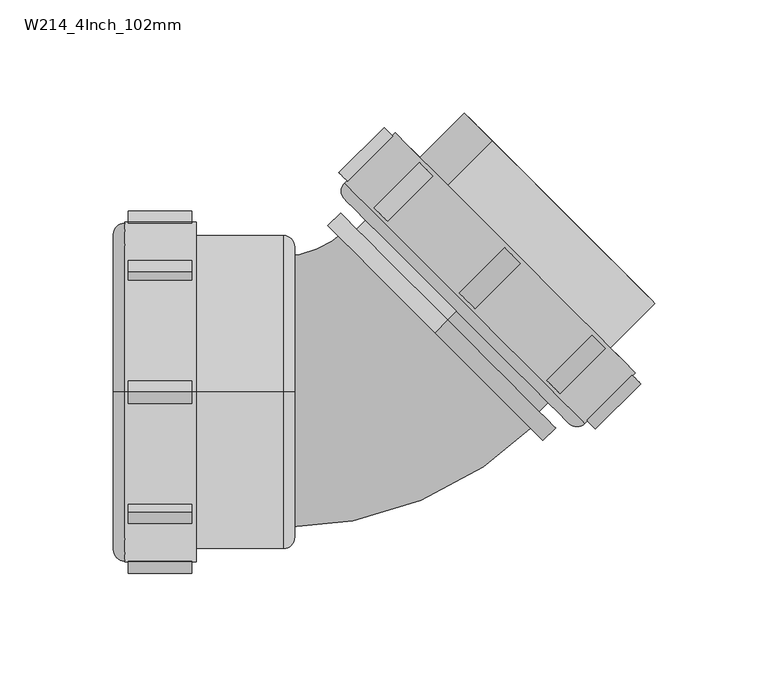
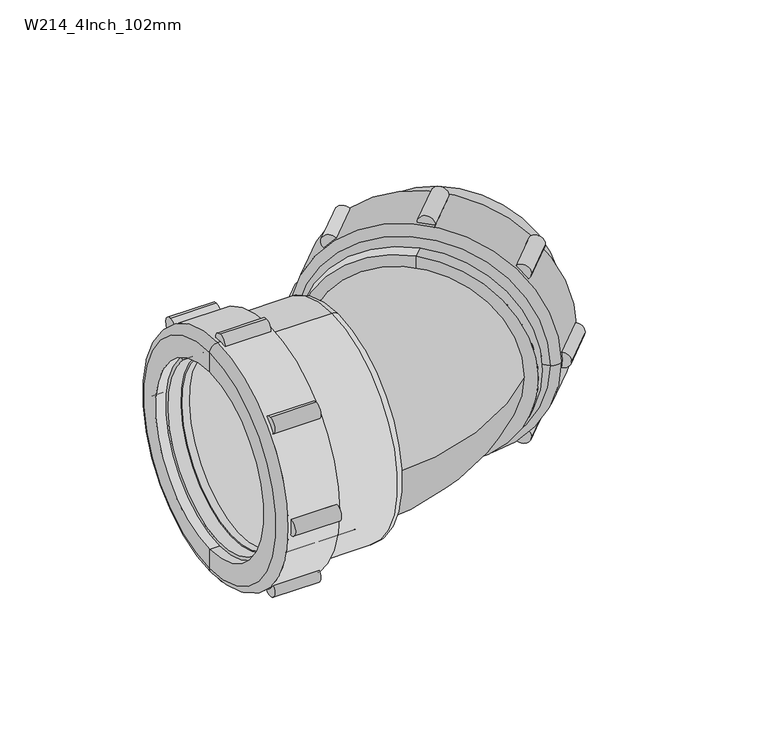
"""IFC4 building model written with IfcOpenShell, lengths in millimetres: pipe fitting geometry, Durapipe_PipeFitting_VulcatheneMechanical_135LooseNutSweepBend_W21 : W214_4Inch_102mm."""

from ifc_helpers import new_model, si_unit, point, frame, frame_2d, origin, place, context, project, spatial, polyline, circle_curve, ellipse_curve, trimmed, segment, composite_curve, outline, extrude, source, transform, mapped, element, save
from ifc_brep_helpers import plane_surface, cylinder_surface, revolved_surface, advanced_brep


def w214_4inch_102mm_c2af0c5c(model_context):
    return source(origin(), model_context, "Body", "SolidModel", [
        advanced_brep(
        [(7.4880839, 71.6880839, 45.3962554), (11.7380839, 67.4380839, 39.3858477), (67.4380839, 11.7380839, -39.3858477), (71.6880839, 7.4880839, -45.3962554), (84.7030117, 25.3030117, -42.0021428), (25.3030117, 84.7030117, 42.0021428), (51.3952519, 110.7952519, 42.0021428), (110.7952519, 51.3952519, -42.0021428), (109.6452519, 52.5452519, -40.3757972), (52.5452519, 109.6452519, 40.3757972), (77.11834, 20.01834, -40.3757972), (20.01834, 77.11834, 40.3757972), (76.06834, 21.06834, -38.890873), (21.06834, 76.06834, 38.890873), (17.5363595, 73.2363595, 39.3858477), (17.8863595, 72.8863595, 38.890873), (72.8863595, 17.8863595, -38.890873), (73.2363595, 17.5363595, -39.3858477)],
        [
            (0, 1),
            (1, 2, circle_curve(frame((39.5880839, 39.5880839, 0.0), z_axis=(0.7071067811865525, 0.7071067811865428, 0.0), x_axis=(0.4999999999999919, -0.5000000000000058, -0.7071067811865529)), 55.7)),
            (2, 3),
            (3, 0, circle_curve(frame((39.5880839, 39.5880839, 0.0), z_axis=(-0.7071067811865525, -0.7071067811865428, 0.0), x_axis=(0.4999999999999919, -0.5000000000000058, -0.7071067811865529)), 64.2)),
            (2, 1, circle_curve(frame((39.5880839, 39.5880839, 0.0), z_axis=(0.7071067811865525, 0.7071067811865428, 0.0), x_axis=(0.4999999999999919, -0.5000000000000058, -0.7071067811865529)), 55.7)),
            (0, 3, circle_curve(frame((39.5880839, 39.5880839, 0.0), z_axis=(-0.7071067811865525, -0.7071067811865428, 0.0), x_axis=(0.4999999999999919, -0.5000000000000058, -0.7071067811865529)), 64.2)),
            (3, 4),
            (4, 5, circle_curve(frame((55.0030117, 55.0030117, 0.0), z_axis=(-0.7071067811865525, -0.7071067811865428, 0.0), x_axis=(0.4999999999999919, -0.5000000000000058, -0.7071067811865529)), 59.4)),
            (5, 0),
            (5, 4, circle_curve(frame((55.0030117, 55.0030117, 0.0), z_axis=(-0.7071067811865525, -0.7071067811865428, 0.0), x_axis=(0.4999999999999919, -0.5000000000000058, -0.7071067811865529)), 59.4)),
            (6, 5),
            (4, 7),
            (7, 6, circle_curve(frame((81.0952519, 81.0952519, 0.0), z_axis=(-0.7071067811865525, -0.7071067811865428, 0.0), x_axis=(0.4999999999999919, -0.5000000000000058, -0.7071067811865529)), 59.4)),
            (6, 7, circle_curve(frame((81.0952519, 81.0952519, 0.0), z_axis=(-0.7071067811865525, -0.7071067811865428, 0.0), x_axis=(0.4999999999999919, -0.5000000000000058, -0.7071067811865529)), 59.4)),
            (7, 8),
            (8, 9, circle_curve(frame((81.0952519, 81.0952519, 0.0), z_axis=(-0.7071067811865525, -0.7071067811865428, 0.0), x_axis=(0.4999999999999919, -0.5000000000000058, -0.7071067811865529)), 57.1)),
            (9, 6),
            (9, 8, circle_curve(frame((81.0952519, 81.0952519, 0.0), z_axis=(-0.7071067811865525, -0.7071067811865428, 0.0), x_axis=(0.4999999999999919, -0.5000000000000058, -0.7071067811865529)), 57.1)),
            (8, 10),
            (10, 11, circle_curve(frame((48.56834, 48.56834, 0.0), z_axis=(-0.7071067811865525, -0.7071067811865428, 0.0), x_axis=(0.4999999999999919, -0.5000000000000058, -0.7071067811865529)), 57.1)),
            (11, 9),
            (11, 10, circle_curve(frame((48.56834, 48.56834, 0.0), z_axis=(-0.7071067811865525, -0.7071067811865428, 0.0), x_axis=(0.4999999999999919, -0.5000000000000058, -0.7071067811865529)), 57.1)),
            (10, 12),
            (12, 13, circle_curve(frame((48.56834, 48.56834, 0.0), z_axis=(-0.7071067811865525, -0.7071067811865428, 0.0), x_axis=(0.4999999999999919, -0.5000000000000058, -0.7071067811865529)), 55.0)),
            (13, 11),
            (13, 12, circle_curve(frame((48.56834, 48.56834, 0.0), z_axis=(-0.7071067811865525, -0.7071067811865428, 0.0), x_axis=(0.4999999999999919, -0.5000000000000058, -0.7071067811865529)), 55.0)),
            (14, 15),
            (15, 16, circle_curve(frame((45.3863595, 45.3863595, 0.0), z_axis=(0.7071067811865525, 0.7071067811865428, 0.0), x_axis=(0.4999999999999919, -0.5000000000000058, -0.7071067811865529)), 55.0)),
            (16, 17),
            (17, 14, circle_curve(frame((45.3863595, 45.3863595, 0.0), z_axis=(-0.7071067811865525, -0.7071067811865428, 0.0), x_axis=(0.4999999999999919, -0.5000000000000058, -0.7071067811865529)), 55.7)),
            (16, 15, circle_curve(frame((45.3863595, 45.3863595, 0.0), z_axis=(0.7071067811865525, 0.7071067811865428, 0.0), x_axis=(0.4999999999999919, -0.5000000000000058, -0.7071067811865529)), 55.0)),
            (14, 17, circle_curve(frame((45.3863595, 45.3863595, 0.0), z_axis=(-0.7071067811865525, -0.7071067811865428, 0.0), x_axis=(0.4999999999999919, -0.5000000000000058, -0.7071067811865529)), 55.7)),
            (1, 14),
            (17, 2),
            (12, 16),
            (15, 13),
        ],
        [
            plane_surface(frame((39.5880839, 39.5880839, 0.0), z_axis=(-0.7071067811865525, -0.7071067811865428, 0.0), x_axis=(0.4999999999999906, -0.5000000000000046, -0.7071067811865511))),
            revolved_surface(polyline([(71.6880839, 7.4880839, -45.3962554), (84.7030117, 25.3030117, -42.0021428)]), (36.05255, 36.05255, 0.0), (0.7071067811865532, 0.7071067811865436, 0.0)),
            cylinder_surface(frame((82.5594266, 82.5594266, 0.0), z_axis=(0.7071067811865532, 0.7071067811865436, 0.0), x_axis=(0.4999999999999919, -0.5000000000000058, -0.7071067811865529)), 59.4),
            plane_surface(frame((81.0952519, 81.0952519, 0.0), z_axis=(0.7071067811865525, 0.7071067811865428, 0.0), x_axis=(0.4999999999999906, -0.5000000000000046, -0.7071067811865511))),
            revolved_surface(polyline([(109.64525189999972, 52.545251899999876, -40.37579720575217), (77.11833999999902, 20.018339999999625, -40.37579720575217)]), (83.5651695, 83.5651695, 0.0), (0.7071067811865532, 0.7071067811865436, 0.0)),
            plane_surface(frame((48.56834, 48.56834, 0.0), z_axis=(0.7071067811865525, 0.7071067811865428, 0.0), x_axis=(0.4999999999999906, -0.5000000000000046, -0.7071067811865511))),
            plane_surface(frame((45.3863595, 45.3863595, 0.0), z_axis=(-0.7071067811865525, -0.7071067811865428, 0.0), x_axis=(0.4999999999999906, -0.5000000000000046, -0.7071067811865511))),
            revolved_surface(polyline([(73.23635949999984, 17.536359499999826, -39.385847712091), (67.4380838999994, 11.738083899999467, -39.385847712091)]), (36.05255, 36.05255, 0.0), (0.7071067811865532, 0.7071067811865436, 0.0)),
            revolved_surface(polyline([(76.06833999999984, 21.06833999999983, -38.89087296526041), (72.88635949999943, 17.886359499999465, -38.89087296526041)]), (38.4806186, 38.4806186, 0.0), (0.7071067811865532, 0.7071067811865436, 0.0)),
        ],
        [
            (0, [[1, 2, 3, 4]]),
            (0, [[5, -1, 6, -3]]),
            (1, [[7, 8, 9, -4]]),
            (1, [[-9, 10, -7, -6]]),
            (2, [[11, -8, 12, 13]]),
            (2, [[-10, -11, 14, -12]]),
            (3, [[15, 16, 17, -13]]),
            (3, [[-17, 18, -15, -14]]),
            (4, [[-16, 19, 20, 21]]),
            (4, [[22, -19, -18, -21]]),
            (5, [[23, 24, 25, -20]]),
            (5, [[-25, 26, -23, -22]]),
            (6, [[27, 28, 29, 30]]),
            (6, [[-29, 31, -27, 32]]),
            (7, [[33, -30, 34, -2]]),
            (7, [[-34, -32, -33, -5]]),
            (8, [[-24, 35, -28, 36]]),
            (8, [[-31, -35, -26, -36]]),
        ],
    ),
        advanced_brep(
        [(8.4753855, 114.5414027, 0.0), (-13.7984781, 92.2675391, 0.0), (92.2675391, -13.7984781, 0.0), (114.5414027, 8.4753855, 0.0), (14.8393465, 108.1774416, 0.0), (108.1774416, 14.8393465, 0.0), (-13.7984781, 85.1964713, 0.0), (-4.9596433, 76.3576365, 0.0), (76.3576365, -4.9596433, 0.0), (85.1964713, -13.7984781, 0.0), (-7.0809637, 86.2571314, 0.0), (86.2571314, -7.0809637, 0.0), (-1.070556, 80.2467238, 0.0), (80.2467238, -1.070556, 0.0)],
        [
            (0, 1),
            (1, 2, circle_curve(frame((39.2345305, 39.2345305, 0.0), z_axis=(0.7071067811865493, 0.7071067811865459, 0.0), x_axis=(0.7071067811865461, -0.7071067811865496, 0.0)), 75.0)),
            (2, 3),
            (3, 0, circle_curve(frame((61.5083941, 61.5083941, 0.0), z_axis=(-0.7071067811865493, -0.7071067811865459, 0.0), x_axis=(0.7071067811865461, -0.7071067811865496, 0.0)), 75.0)),
            (2, 1, circle_curve(frame((39.2345305, 39.2345305, 0.0), z_axis=(0.7071067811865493, 0.7071067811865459, 0.0), x_axis=(0.7071067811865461, -0.7071067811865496, 0.0)), 75.0)),
            (0, 3, circle_curve(frame((61.5083941, 61.5083941, 0.0), z_axis=(-0.7071067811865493, -0.7071067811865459, 0.0), x_axis=(0.7071067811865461, -0.7071067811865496, 0.0)), 75.0)),
            (4, 0),
            (3, 5),
            (5, 4, circle_curve(frame((61.5083941, 61.5083941, 0.0), z_axis=(-0.7071067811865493, -0.7071067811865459, 0.0), x_axis=(0.7071067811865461, -0.7071067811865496, 0.0)), 66.0)),
            (4, 5, circle_curve(frame((61.5083941, 61.5083941, 0.0), z_axis=(-0.7071067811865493, -0.7071067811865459, 0.0), x_axis=(0.7071067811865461, -0.7071067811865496, 0.0)), 66.0)),
            (6, 7),
            (7, 8, circle_curve(frame((35.6989966, 35.6989966, 0.0), z_axis=(0.7071067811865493, 0.7071067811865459, 0.0), x_axis=(0.7071067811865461, -0.7071067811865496, 0.0)), 57.5)),
            (8, 9),
            (9, 6, circle_curve(frame((35.6989966, 35.6989966, 0.0), z_axis=(-0.7071067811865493, -0.7071067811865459, 0.0), x_axis=(0.7071067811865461, -0.7071067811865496, 0.0)), 70.0)),
            (8, 7, circle_curve(frame((35.6989966, 35.6989966, 0.0), z_axis=(0.7071067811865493, 0.7071067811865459, 0.0), x_axis=(0.7071067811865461, -0.7071067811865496, 0.0)), 57.5)),
            (6, 9, circle_curve(frame((35.6989966, 35.6989966, 0.0), z_axis=(-0.7071067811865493, -0.7071067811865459, 0.0), x_axis=(0.7071067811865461, -0.7071067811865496, 0.0)), 70.0)),
            (1, 6, circle_curve(frame((-10.2629442, 88.7320052, 0.0), z_axis=(0.0, 0.0, 1.0000000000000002), x_axis=(-0.7071067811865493, -0.7071067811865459, 0.0)), 5.0)),
            (9, 2, circle_curve(frame((88.7320052, -10.2629442, 0.0), z_axis=(0.0, 0.0, 1.0000000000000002), x_axis=(-0.7071067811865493, -0.7071067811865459, 0.0)), 5.0)),
            (10, 4),
            (5, 11),
            (11, 10, circle_curve(frame((39.5880839, 39.5880839, 0.0), z_axis=(-0.7071067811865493, -0.7071067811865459, 0.0), x_axis=(0.7071067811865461, -0.7071067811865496, 0.0)), 66.0)),
            (10, 11, circle_curve(frame((39.5880839, 39.5880839, 0.0), z_axis=(-0.7071067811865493, -0.7071067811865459, 0.0), x_axis=(0.7071067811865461, -0.7071067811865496, 0.0)), 66.0)),
            (12, 10),
            (11, 13),
            (13, 12, circle_curve(frame((39.5880839, 39.5880839, 0.0), z_axis=(-0.7071067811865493, -0.7071067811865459, 0.0), x_axis=(0.7071067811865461, -0.7071067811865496, 0.0)), 57.5)),
            (12, 13, circle_curve(frame((39.5880839, 39.5880839, 0.0), z_axis=(-0.7071067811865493, -0.7071067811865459, 0.0), x_axis=(0.7071067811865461, -0.7071067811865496, 0.0)), 57.5)),
            (7, 12),
            (13, 8),
        ],
        [
            cylinder_surface(frame((-1067.9545533, -1067.9545533, 0.0), z_axis=(0.7071067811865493, 0.7071067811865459, 0.0), x_axis=(0.7071067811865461, -0.7071067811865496, 0.0)), 75.0),
            plane_surface(frame((61.5083941, 61.5083941, 0.0), z_axis=(0.7071067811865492, 0.7071067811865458, 0.0), x_axis=(0.7071067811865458, -0.7071067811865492, 0.0))),
            plane_surface(frame((35.6989966, 35.6989966, 0.0), z_axis=(-0.7071067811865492, -0.7071067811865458, 0.0), x_axis=(0.7071067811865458, -0.7071067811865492, 0.0))),
            revolved_surface(trimmed(ellipse_curve(frame((88.7320052, -10.2629442, 0.0), z_axis=(0.0, 0.0, 1.0000000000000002), x_axis=(-0.7071067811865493, -0.7071067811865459, 0.0)), 5.0, 5.0), [point((85.1964713, -13.7984781, 0.0))], [point((92.2675391, -13.7984781, 0.0))], True, "CARTESIAN"), (-1067.9545533, -1067.9545533, 0.0), (0.7071067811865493, 0.7071067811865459, 0.0)),
            revolved_surface(polyline([(108.17744165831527, 14.839346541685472, 0.0), (86.25713140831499, -7.080963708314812, 0.0)]), (-1067.9545533, -1067.9545533, 0.0), (0.7071067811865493, 0.7071067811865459, 0.0)),
            plane_surface(frame((39.5880839, 39.5880839, 0.0), z_axis=(0.7071067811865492, 0.7071067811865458, 0.0), x_axis=(0.7071067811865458, -0.7071067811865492, 0.0))),
            revolved_surface(polyline([(80.24672381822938, -1.0705560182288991, 0.0), (76.35763651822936, -4.9596433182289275, 0.0)]), (-1067.9545533, -1067.9545533, 0.0), (0.7071067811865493, 0.7071067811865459, 0.0)),
        ],
        [
            (0, [[1, 2, 3, 4]]),
            (0, [[-3, 5, -1, 6]]),
            (1, [[7, -4, 8, 9]]),
            (1, [[-8, -6, -7, 10]]),
            (2, [[11, 12, 13, 14]]),
            (2, [[-13, 15, -11, 16]]),
            (3, [[17, -14, 18, -2]]),
            (3, [[-18, -16, -17, -5]]),
            (4, [[19, -9, 20, 21]]),
            (4, [[-20, -10, -19, 22]]),
            (5, [[23, -21, 24, 25]]),
            (5, [[-24, -22, -23, 26]]),
            (6, [[27, -25, 28, -12]]),
            (6, [[-28, -26, -27, -15]]),
        ],
    ),
        extrude(outline(composite_curve([segment(trimmed(circle_curve(frame_2d((0.0, 5.0000001)), 5.0), [point((0.0, 10.0000001))], [point((0.0, 0.0))], False, "CARTESIAN"), True, "CONTINUOUS"), segment(trimmed(circle_curve(frame_2d((0.0, 5.0000001)), 5.0), [point((0.0, 0.0))], [point((0.0, 10.0000001))], False, "CARTESIAN"), True, "CONTINUOUS")], self_intersect=False)), frame((43.8307246, 36.7596567, -75.0), z_axis=(0.7071067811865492, 0.7071067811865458, 0.0), x_axis=(0.0, 0.0, -1.0)), (0.0, 0.0, 1.0), 28.2),
        extrude(outline(composite_curve([segment(trimmed(circle_curve(frame_2d((-21.9669914, -48.0330085)), 5.0), [point((-21.9669914, -43.0330085))], [point((-21.9669914, -53.0330086))], False, "CARTESIAN"), True, "CONTINUOUS"), segment(trimmed(circle_curve(frame_2d((-21.9669914, -48.0330085)), 5.0), [point((-21.9669914, -53.0330086))], [point((-21.9669914, -43.0330085))], False, "CARTESIAN"), True, "CONTINUOUS")], self_intersect=False)), frame((43.8307246, 36.7596567, -75.0), z_axis=(0.7071067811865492, 0.7071067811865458, 0.0), x_axis=(0.0, 0.0, -1.0)), (0.0, 0.0, 1.0), 28.2),
        extrude(outline(composite_curve([segment(trimmed(circle_curve(frame_2d((-75.0, -69.9999999)), 5.0), [point((-75.0, -64.9999999))], [point((-75.0, -74.9999999))], False, "CARTESIAN"), True, "CONTINUOUS"), segment(trimmed(circle_curve(frame_2d((-75.0, -69.9999999)), 5.0), [point((-75.0, -74.9999999))], [point((-75.0, -64.9999999))], False, "CARTESIAN"), True, "CONTINUOUS")], self_intersect=False)), frame((43.8307246, 36.7596567, -75.0), z_axis=(0.7071067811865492, 0.7071067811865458, 0.0), x_axis=(0.0, 0.0, -1.0)), (0.0, 0.0, 1.0), 28.2),
        extrude(outline(composite_curve([segment(trimmed(circle_curve(frame_2d((-128.0330086, -48.0330085)), 5.0), [point((-128.0330086, -43.0330085))], [point((-128.0330086, -53.0330086))], False, "CARTESIAN"), True, "CONTINUOUS"), segment(trimmed(circle_curve(frame_2d((-128.0330086, -48.0330085)), 5.0), [point((-128.0330086, -53.0330086))], [point((-128.0330086, -43.0330085))], False, "CARTESIAN"), True, "CONTINUOUS")], self_intersect=False)), frame((43.8307246, 36.7596567, -75.0), z_axis=(0.7071067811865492, 0.7071067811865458, 0.0), x_axis=(0.0, 0.0, -1.0)), (0.0, 0.0, 1.0), 28.2),
        extrude(outline(composite_curve([segment(trimmed(circle_curve(frame_2d((-150.0, 5.0000001)), 5.0), [point((-150.0, 10.0000001))], [point((-150.0, 0.0))], False, "CARTESIAN"), True, "CONTINUOUS"), segment(trimmed(circle_curve(frame_2d((-150.0, 5.0000001)), 5.0), [point((-150.0, 0.0))], [point((-150.0, 10.0000001))], False, "CARTESIAN"), True, "CONTINUOUS")], self_intersect=False)), frame((43.8307246, 36.7596567, -75.0), z_axis=(0.7071067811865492, 0.7071067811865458, 0.0), x_axis=(0.0, 0.0, -1.0)), (0.0, 0.0, 1.0), 28.2),
        extrude(outline(composite_curve([segment(trimmed(circle_curve(frame_2d((-128.0330086, 58.0330087)), 5.0), [point((-128.0330086, 63.0330087))], [point((-128.0330086, 53.0330086))], False, "CARTESIAN"), True, "CONTINUOUS"), segment(trimmed(circle_curve(frame_2d((-128.0330086, 58.0330087)), 5.0), [point((-128.0330086, 53.0330086))], [point((-128.0330086, 63.0330087))], False, "CARTESIAN"), True, "CONTINUOUS")], self_intersect=False)), frame((43.8307246, 36.7596567, -75.0), z_axis=(0.7071067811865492, 0.7071067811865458, 0.0), x_axis=(0.0, 0.0, -1.0)), (0.0, 0.0, 1.0), 28.2),
        extrude(outline(composite_curve([segment(trimmed(circle_curve(frame_2d((-75.0, 80.0)), 5.0), [point((-75.0, 85.0))], [point((-75.0, 75.0))], False, "CARTESIAN"), True, "CONTINUOUS"), segment(trimmed(circle_curve(frame_2d((-75.0, 80.0)), 5.0), [point((-75.0, 75.0))], [point((-75.0, 85.0))], False, "CARTESIAN"), True, "CONTINUOUS")], self_intersect=False)), frame((43.8307246, 36.7596567, -75.0), z_axis=(0.7071067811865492, 0.7071067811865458, 0.0), x_axis=(0.0, 0.0, -1.0)), (0.0, 0.0, 1.0), 28.2),
        extrude(outline(composite_curve([segment(trimmed(circle_curve(frame_2d((-21.9669914, 58.0330087)), 5.0), [point((-21.9669914, 63.0330087))], [point((-21.9669914, 53.0330086))], False, "CARTESIAN"), True, "CONTINUOUS"), segment(trimmed(circle_curve(frame_2d((-21.9669914, 58.0330087)), 5.0), [point((-21.9669914, 53.0330086))], [point((-21.9669914, 63.0330087))], False, "CARTESIAN"), True, "CONTINUOUS")], self_intersect=False)), frame((43.8307246, 36.7596567, -75.0), z_axis=(0.7071067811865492, 0.7071067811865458, 0.0), x_axis=(0.0, 0.0, -1.0)), (0.0, 0.0, 1.0), 28.2),
        advanced_brep(
        [(81.1659626, 81.1659626, 57.15), (81.1659626, 81.1659626, -57.15), (81.1659626, 81.1659626, -50.95), (81.1659626, 81.1659626, 50.95), (31.7391986, 31.7391986, 57.15), (31.7391986, 31.7391986, -57.15), (31.7391986, 31.7391986, 67.25), (31.7391986, 31.7391986, -67.25), (26.153055, 26.153055, 67.25), (26.153055, 26.153055, -67.25), (26.153055, 26.153055, 50.95), (26.153055, 26.153055, -50.95)],
        [
            (0, 1, circle_curve(frame((81.1659626, 81.1659626, 0.0), z_axis=(0.7071067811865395, 0.7071067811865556, 0.0), x_axis=(0.0, 0.0, -1.0)), 57.15)),
            (1, 2),
            (2, 3, circle_curve(frame((81.1659626, 81.1659626, 0.0), z_axis=(-0.7071067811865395, -0.7071067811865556, 0.0), x_axis=(0.0, 0.0, -1.0)), 50.95)),
            (3, 0),
            (1, 0, circle_curve(frame((81.1659626, 81.1659626, 0.0), z_axis=(0.7071067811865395, 0.7071067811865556, 0.0), x_axis=(0.0, 0.0, -1.0)), 57.15)),
            (3, 2, circle_curve(frame((81.1659626, 81.1659626, 0.0), z_axis=(-0.7071067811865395, -0.7071067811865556, 0.0), x_axis=(0.0, 0.0, -1.0)), 50.95)),
            (4, 5, circle_curve(frame((31.7391986, 31.7391986, 0.0), z_axis=(0.7071067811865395, 0.7071067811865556, 0.0), x_axis=(0.0, 0.0, -1.0)), 57.15)),
            (5, 1),
            (0, 4),
            (5, 4, circle_curve(frame((31.7391986, 31.7391986, 0.0), z_axis=(0.7071067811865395, 0.7071067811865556, 0.0), x_axis=(0.0, 0.0, -1.0)), 57.15)),
            (6, 7, circle_curve(frame((31.7391986, 31.7391986, 0.0), z_axis=(0.7071067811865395, 0.7071067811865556, 0.0), x_axis=(0.0, 0.0, -1.0)), 67.25)),
            (7, 5),
            (4, 6),
            (7, 6, circle_curve(frame((31.7391986, 31.7391986, 0.0), z_axis=(0.7071067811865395, 0.7071067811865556, 0.0), x_axis=(0.0, 0.0, -1.0)), 67.25)),
            (8, 9, circle_curve(frame((26.153055, 26.153055, 0.0), z_axis=(0.7071067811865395, 0.7071067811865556, 0.0), x_axis=(0.0, 0.0, -1.0)), 67.25)),
            (9, 7),
            (6, 8),
            (9, 8, circle_curve(frame((26.153055, 26.153055, 0.0), z_axis=(0.7071067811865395, 0.7071067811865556, 0.0), x_axis=(0.0, 0.0, -1.0)), 67.25)),
            (10, 11, circle_curve(frame((26.153055, 26.153055, 0.0), z_axis=(0.7071067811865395, 0.7071067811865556, 0.0), x_axis=(0.0, 0.0, -1.0)), 50.95)),
            (11, 9),
            (8, 10),
            (11, 10, circle_curve(frame((26.153055, 26.153055, 0.0), z_axis=(0.7071067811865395, 0.7071067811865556, 0.0), x_axis=(0.0, 0.0, -1.0)), 50.95)),
            (2, 11),
            (10, 3),
        ],
        [
            plane_surface(frame((81.1659626, 81.1659626, 0.0), z_axis=(0.7071067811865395, 0.7071067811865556, 0.0), x_axis=(0.0, 0.0, -1.0))),
            cylinder_surface(frame((88.2370304, 88.2370304, 0.0), z_axis=(-0.7071067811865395, -0.7071067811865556, 0.0), x_axis=(0.0, 0.0, -1.0)), 57.15),
            plane_surface(frame((31.7391986, 31.7391986, 0.0), z_axis=(0.7071067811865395, 0.7071067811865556, 0.0), x_axis=(0.0, 0.0, -1.0))),
            cylinder_surface(frame((88.2370304, 88.2370304, 0.0), z_axis=(-0.7071067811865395, -0.7071067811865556, 0.0), x_axis=(0.0, 0.0, -1.0)), 67.25),
            plane_surface(frame((26.153055, 26.153055, 0.0), z_axis=(-0.7071067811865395, -0.7071067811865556, 0.0), x_axis=(0.0, 0.0, -1.0))),
            revolved_surface(polyline([(26.1530550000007, 26.153054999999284, -50.95), (81.16596260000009, 81.16596259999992, -50.95)]), (88.2370304, 88.2370304, 0.0), (-0.7071067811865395, -0.7071067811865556, 0.0)),
        ],
        [
            (0, [[1, 2, 3, 4]]),
            (0, [[5, -4, 6, -2]]),
            (1, [[7, 8, -1, 9]]),
            (1, [[10, -9, -5, -8]]),
            (2, [[11, 12, -7, 13]]),
            (2, [[14, -13, -10, -12]]),
            (3, [[15, 16, -11, 17]]),
            (3, [[18, -17, -14, -16]]),
            (4, [[19, 20, -15, 21]]),
            (4, [[22, -21, -18, -20]]),
            (5, [[-3, 23, -19, 24]]),
            (5, [[-6, -24, -22, -23]]),
        ],
    ),
        advanced_brep(
        [(-109.5213562, -45.3962554, -45.3962554), (-109.5213562, 45.3962554, 45.3962554), (-109.5213562, 39.3858477, 39.3858477), (-109.5213562, -39.3858477, -39.3858477), (-87.7213562, -42.0021428, -42.0021428), (-87.7213562, 42.0021428, 42.0021428), (-50.8213562, -42.0021428, -42.0021428), (-50.8213562, 42.0021428, 42.0021428), (-50.8213562, -40.3757972, -40.3757972), (-50.8213562, 40.3757972, 40.3757972), (-96.8213562, -40.3757972, -40.3757972), (-96.8213562, 40.3757972, 40.3757972), (-96.8213562, -38.890873, -38.890873), (-96.8213562, 38.890873, 38.890873), (-101.3213562, -39.3858477, -39.3858477), (-101.3213562, 39.3858477, 39.3858477), (-101.3213562, 38.890873, 38.890873), (-101.3213562, -38.890873, -38.890873)],
        [
            (0, 1, circle_curve(frame((-109.5213562, 0.0, 0.0), z_axis=(-1.0, 0.0, 0.0), x_axis=(0.0, 0.7071067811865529, 0.7071067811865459)), 64.2)),
            (1, 2),
            (2, 3, circle_curve(frame((-109.5213562, 0.0, 0.0), z_axis=(1.0, 0.0, 0.0), x_axis=(0.0, 0.7071067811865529, 0.7071067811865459)), 55.7)),
            (3, 0),
            (1, 0, circle_curve(frame((-109.5213562, 0.0, 0.0), z_axis=(-1.0, 0.0, 0.0), x_axis=(0.0, 0.7071067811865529, 0.7071067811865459)), 64.2)),
            (3, 2, circle_curve(frame((-109.5213562, 0.0, 0.0), z_axis=(1.0, 0.0, 0.0), x_axis=(0.0, 0.7071067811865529, 0.7071067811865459)), 55.7)),
            (0, 4),
            (4, 5, circle_curve(frame((-87.7213562, 0.0, 0.0), z_axis=(-1.0, 0.0, 0.0), x_axis=(0.0, 0.7071067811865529, 0.7071067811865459)), 59.4)),
            (5, 1),
            (5, 4, circle_curve(frame((-87.7213562, 0.0, 0.0), z_axis=(-1.0, 0.0, 0.0), x_axis=(0.0, 0.7071067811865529, 0.7071067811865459)), 59.4)),
            (6, 7, circle_curve(frame((-50.8213562, 0.0, 0.0), z_axis=(-1.0, 0.0, 0.0), x_axis=(0.0, 0.7071067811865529, 0.7071067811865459)), 59.4)),
            (7, 5),
            (4, 6),
            (7, 6, circle_curve(frame((-50.8213562, 0.0, 0.0), z_axis=(-1.0, 0.0, 0.0), x_axis=(0.0, 0.7071067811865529, 0.7071067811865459)), 59.4)),
            (6, 8),
            (8, 9, circle_curve(frame((-50.8213562, 0.0, 0.0), z_axis=(-1.0, 0.0, 0.0), x_axis=(0.0, 0.7071067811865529, 0.7071067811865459)), 57.1)),
            (9, 7),
            (9, 8, circle_curve(frame((-50.8213562, 0.0, 0.0), z_axis=(-1.0, 0.0, 0.0), x_axis=(0.0, 0.7071067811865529, 0.7071067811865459)), 57.1)),
            (8, 10),
            (10, 11, circle_curve(frame((-96.8213562, 0.0, 0.0), z_axis=(-1.0, 0.0, 0.0), x_axis=(0.0, 0.7071067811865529, 0.7071067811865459)), 57.1)),
            (11, 9),
            (11, 10, circle_curve(frame((-96.8213562, 0.0, 0.0), z_axis=(-1.0, 0.0, 0.0), x_axis=(0.0, 0.7071067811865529, 0.7071067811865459)), 57.1)),
            (10, 12),
            (12, 13, circle_curve(frame((-96.8213562, 0.0, 0.0), z_axis=(-1.0, 0.0, 0.0), x_axis=(0.0, 0.7071067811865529, 0.7071067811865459)), 55.0)),
            (13, 11),
            (13, 12, circle_curve(frame((-96.8213562, 0.0, 0.0), z_axis=(-1.0, 0.0, 0.0), x_axis=(0.0, 0.7071067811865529, 0.7071067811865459)), 55.0)),
            (14, 15, circle_curve(frame((-101.3213562, 0.0, 0.0), z_axis=(-1.0, 0.0, 0.0), x_axis=(0.0, 0.7071067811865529, 0.7071067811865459)), 55.7)),
            (15, 16),
            (16, 17, circle_curve(frame((-101.3213562, 0.0, 0.0), z_axis=(1.0, 0.0, 0.0), x_axis=(0.0, 0.7071067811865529, 0.7071067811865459)), 55.0)),
            (17, 14),
            (15, 14, circle_curve(frame((-101.3213562, 0.0, 0.0), z_axis=(-1.0, 0.0, 0.0), x_axis=(0.0, 0.7071067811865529, 0.7071067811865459)), 55.7)),
            (17, 16, circle_curve(frame((-101.3213562, 0.0, 0.0), z_axis=(1.0, 0.0, 0.0), x_axis=(0.0, 0.7071067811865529, 0.7071067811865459)), 55.0)),
            (2, 15),
            (14, 3),
            (12, 17),
            (16, 13),
        ],
        [
            plane_surface(frame((-109.5213562, 0.0, 0.0), z_axis=(-1.0, 0.0, 0.0), x_axis=(0.0, 0.707106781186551, 0.707106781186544))),
            revolved_surface(polyline([(-109.5213562, 45.3962554, 45.3962554), (-87.7213562, 42.0021428, 42.0021428)]), (-114.5213562, 0.0, 0.0), (1.0000000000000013, 0.0, 0.0)),
            cylinder_surface(frame((-48.7507005, 0.0, 0.0), z_axis=(1.0000000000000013, 0.0, 0.0), x_axis=(0.0, 0.7071067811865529, 0.7071067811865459)), 59.4),
            plane_surface(frame((-50.8213562, 0.0, 0.0), z_axis=(1.0, 0.0, 0.0), x_axis=(0.0, 0.707106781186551, 0.707106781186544))),
            revolved_surface(polyline([(-50.821356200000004, 40.37579720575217, 40.37579720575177), (-96.82135620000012, 40.37579720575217, 40.37579720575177)]), (-47.3283653, 0.0, 0.0), (1.0000000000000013, 0.0, 0.0)),
            plane_surface(frame((-96.8213562, 0.0, 0.0), z_axis=(1.0, 0.0, 0.0), x_axis=(0.0, 0.707106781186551, 0.707106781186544))),
            plane_surface(frame((-101.3213562, 0.0, 0.0), z_axis=(-1.0, 0.0, 0.0), x_axis=(0.0, 0.707106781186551, 0.707106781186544))),
            revolved_surface(polyline([(-101.32135619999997, 39.385847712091, 39.38584771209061), (-109.52135619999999, 39.385847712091, 39.38584771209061)]), (-114.5213562, 0.0, 0.0), (1.0000000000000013, 0.0, 0.0)),
            revolved_surface(polyline([(-96.82135619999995, 38.89087296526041, 38.89087296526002), (-101.32135619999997, 38.89087296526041, 38.89087296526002)]), (-111.0875487, 0.0, 0.0), (1.0000000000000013, 0.0, 0.0)),
        ],
        [
            (0, [[1, 2, 3, 4]]),
            (0, [[-2, 5, -4, 6]]),
            (1, [[-1, 7, 8, 9]]),
            (1, [[-5, -9, 10, -7]]),
            (2, [[11, 12, -8, 13]]),
            (2, [[-12, 14, -13, -10]]),
            (3, [[-11, 15, 16, 17]]),
            (3, [[-14, -17, 18, -15]]),
            (4, [[19, 20, 21, -16]]),
            (4, [[-19, -18, -21, 22]]),
            (5, [[-20, 23, 24, 25]]),
            (5, [[-22, -25, 26, -23]]),
            (6, [[27, 28, 29, 30]]),
            (6, [[31, -30, 32, -28]]),
            (7, [[-3, 33, -27, 34]]),
            (7, [[-6, -34, -31, -33]]),
            (8, [[35, -29, 36, -24]]),
            (8, [[-35, -26, -36, -32]]),
        ],
    ),
        advanced_brep(
        [(-79.3213562, 0.0, -75.0), (-79.3213562, 0.0, 75.0), (-110.8213562, 0.0, 75.0), (-110.8213562, 0.0, -75.0), (-79.3213562, 0.0, -69.5), (-79.3213562, 0.0, 69.5), (-115.8213562, 0.0, -70.0), (-115.8213562, 0.0, 70.0), (-115.8213562, 0.0, 57.5), (-115.8213562, 0.0, -57.5), (-109.5213562, 0.0, -66.0), (-109.5213562, 0.0, 66.0), (-41.4213562, 0.0, 66.0), (-41.4213562, 0.0, -66.0), (-109.5213562, 0.0, -57.5), (-109.5213562, 0.0, 57.5), (-40.8213562, 0.0, -69.5), (-40.8213562, 0.0, 69.5), (-35.8213562, 0.0, -64.5), (-35.8213562, 0.0, 64.5), (-35.8213562, 0.0, 0.0), (-41.4213562, 0.0, 0.0)],
        [
            (0, 1, circle_curve(frame((-79.3213562, 0.0, 0.0), z_axis=(-1.0, 0.0, 0.0), x_axis=(0.0, 0.0, 1.0000000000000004)), 75.0)),
            (1, 2),
            (2, 3, circle_curve(frame((-110.8213562, 0.0, 0.0), z_axis=(1.0, 0.0, 0.0), x_axis=(0.0, 0.0, 1.0000000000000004)), 75.0)),
            (3, 0),
            (1, 0, circle_curve(frame((-79.3213562, 0.0, 0.0), z_axis=(-1.0, 0.0, 0.0), x_axis=(0.0, 0.0, 1.0000000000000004)), 75.0)),
            (3, 2, circle_curve(frame((-110.8213562, 0.0, 0.0), z_axis=(1.0, 0.0, 0.0), x_axis=(0.0, 0.0, 1.0000000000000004)), 75.0)),
            (4, 5, circle_curve(frame((-79.3213562, 0.0, 0.0), z_axis=(-1.0, 0.0, 0.0), x_axis=(0.0, 0.0, 1.0000000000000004)), 69.5)),
            (5, 1),
            (0, 4),
            (5, 4, circle_curve(frame((-79.3213562, 0.0, 0.0), z_axis=(-1.0, 0.0, 0.0), x_axis=(0.0, 0.0, 1.0000000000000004)), 69.5)),
            (6, 7, circle_curve(frame((-115.8213562, 0.0, 0.0), z_axis=(-1.0, 0.0, 0.0), x_axis=(0.0, 0.0, 1.0000000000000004)), 70.0)),
            (7, 8),
            (8, 9, circle_curve(frame((-115.8213562, 0.0, 0.0), z_axis=(1.0, 0.0, 0.0), x_axis=(0.0, 0.0, 1.0000000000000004)), 57.5)),
            (9, 6),
            (7, 6, circle_curve(frame((-115.8213562, 0.0, 0.0), z_axis=(-1.0, 0.0, 0.0), x_axis=(0.0, 0.0, 1.0000000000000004)), 70.0)),
            (9, 8, circle_curve(frame((-115.8213562, 0.0, 0.0), z_axis=(1.0, 0.0, 0.0), x_axis=(0.0, 0.0, 1.0000000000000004)), 57.5)),
            (2, 7, circle_curve(frame((-110.8213562, 0.0, 70.0), z_axis=(0.0, -1.0000000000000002, 0.0), x_axis=(-1.0000000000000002, 0.0, 0.0)), 5.0)),
            (6, 3, circle_curve(frame((-110.8213562, 0.0, -70.0), z_axis=(0.0, -1.0000000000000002, 0.0), x_axis=(-1.0000000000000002, 0.0, 0.0)), 5.0)),
            (10, 11, circle_curve(frame((-109.5213562, 0.0, 0.0), z_axis=(-1.0, 0.0, 0.0), x_axis=(0.0, 0.0, 1.0000000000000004)), 66.0)),
            (11, 12),
            (12, 13, circle_curve(frame((-41.4213562, 0.0, 0.0), z_axis=(1.0, 0.0, 0.0), x_axis=(0.0, 0.0, 1.0000000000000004)), 66.0)),
            (13, 10),
            (11, 10, circle_curve(frame((-109.5213562, 0.0, 0.0), z_axis=(-1.0, 0.0, 0.0), x_axis=(0.0, 0.0, 1.0000000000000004)), 66.0)),
            (13, 12, circle_curve(frame((-41.4213562, 0.0, 0.0), z_axis=(1.0, 0.0, 0.0), x_axis=(0.0, 0.0, 1.0000000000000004)), 66.0)),
            (14, 15, circle_curve(frame((-109.5213562, 0.0, 0.0), z_axis=(-1.0, 0.0, 0.0), x_axis=(0.0, 0.0, 1.0000000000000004)), 57.5)),
            (15, 11),
            (10, 14),
            (15, 14, circle_curve(frame((-109.5213562, 0.0, 0.0), z_axis=(-1.0, 0.0, 0.0), x_axis=(0.0, 0.0, 1.0000000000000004)), 57.5)),
            (8, 15),
            (14, 9),
            (16, 17, circle_curve(frame((-40.8213562, 0.0, 0.0), z_axis=(-1.0, 0.0, 0.0), x_axis=(0.0, 0.0, 1.0000000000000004)), 69.5)),
            (17, 5),
            (4, 16),
            (17, 16, circle_curve(frame((-40.8213562, 0.0, 0.0), z_axis=(-1.0, 0.0, 0.0), x_axis=(0.0, 0.0, 1.0000000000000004)), 69.5)),
            (18, 19, circle_curve(frame((-35.8213562, 0.0, 0.0), z_axis=(-1.0, 0.0, 0.0), x_axis=(0.0, 0.0, 1.0000000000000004)), 64.5)),
            (19, 17, circle_curve(frame((-40.8213562, 0.0, 64.5), z_axis=(0.0, -1.0000000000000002, 0.0), x_axis=(-1.0000000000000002, 0.0, 0.0)), 5.0)),
            (16, 18, circle_curve(frame((-40.8213562, 0.0, -64.5), z_axis=(0.0, -1.0000000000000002, 0.0), x_axis=(-1.0000000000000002, 0.0, 0.0)), 5.0)),
            (19, 18, circle_curve(frame((-35.8213562, 0.0, 0.0), z_axis=(-1.0, 0.0, 0.0), x_axis=(0.0, 0.0, 1.0000000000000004)), 64.5)),
            (20, 19),
            (18, 20),
            (12, 21),
            (21, 13),
        ],
        [
            cylinder_surface(frame((-1676.6231746, 0.0, 0.0), z_axis=(1.0000000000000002, 0.0, 0.0), x_axis=(0.0, 0.0, 1.0000000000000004)), 75.0),
            plane_surface(frame((-79.3213562, 0.0, 0.0), z_axis=(1.0, 0.0, 0.0), x_axis=(0.0, 0.0, 1.0))),
            plane_surface(frame((-115.8213562, 0.0, 0.0), z_axis=(-1.0, 0.0, 0.0), x_axis=(0.0, 0.0, 1.0))),
            revolved_surface(trimmed(ellipse_curve(frame((-110.8213562, 0.0, 70.0), z_axis=(0.0, 1.0000000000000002, 0.0), x_axis=(-1.0000000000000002, 0.0, 0.0)), 5.0, 5.0), [point((-115.8213562, 0.0, 70.0))], [point((-110.8213562, 0.0, 75.0))], True, "CARTESIAN"), (-1676.6231746, 0.0, 0.0), (1.0000000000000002, 0.0, 0.0)),
            revolved_surface(polyline([(-41.42135619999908, 0.0, 66.00000000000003), (-109.52135619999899, 0.0, 66.00000000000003)]), (-1676.6231746, 0.0, 0.0), (1.0000000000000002, 0.0, 0.0)),
            plane_surface(frame((-109.5213562, 0.0, 0.0), z_axis=(1.0, 0.0, 0.0), x_axis=(0.0, 0.0, 1.0))),
            revolved_surface(polyline([(-109.52135619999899, 0.0, 57.50000000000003), (-115.82135619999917, 0.0, 57.50000000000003)]), (-1676.6231746, 0.0, 0.0), (1.0000000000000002, 0.0, 0.0)),
            cylinder_surface(frame((-1676.6231746, 0.0, 0.0), z_axis=(1.0000000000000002, 0.0, 0.0), x_axis=(0.0, 0.0, 1.0000000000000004)), 69.5),
            revolved_surface(trimmed(ellipse_curve(frame((-40.8213562, 0.0, 64.5), z_axis=(0.0, 1.0000000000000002, 0.0), x_axis=(-1.0000000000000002, 0.0, 0.0)), 5.0, 5.0), [point((-40.8213562, 0.0, 69.5))], [point((-35.8213562, 0.0, 64.5))], True, "CARTESIAN"), (-1676.6231746, 0.0, 0.0), (1.0000000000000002, 0.0, 0.0)),
            plane_surface(frame((-35.8213562, 0.0, 0.0), z_axis=(1.0, 0.0, 0.0), x_axis=(0.0, 0.0, 1.0))),
            plane_surface(frame((-41.4213562, 0.0, 0.0), z_axis=(-1.0, 0.0, 0.0), x_axis=(0.0, 0.0, 1.0))),
        ],
        [
            (0, [[1, 2, 3, 4]]),
            (0, [[5, -4, 6, -2]]),
            (1, [[7, 8, -1, 9]]),
            (1, [[10, -9, -5, -8]]),
            (2, [[11, 12, 13, 14]]),
            (2, [[15, -14, 16, -12]]),
            (3, [[-3, 17, -11, 18]]),
            (3, [[-6, -18, -15, -17]]),
            (4, [[19, 20, 21, 22]]),
            (4, [[23, -22, 24, -20]]),
            (5, [[25, 26, -19, 27]]),
            (5, [[28, -27, -23, -26]]),
            (6, [[-13, 29, -25, 30]]),
            (6, [[-16, -30, -28, -29]]),
            (7, [[31, 32, -7, 33]]),
            (7, [[34, -33, -10, -32]]),
            (8, [[35, 36, -31, 37]]),
            (8, [[38, -37, -34, -36]]),
            (9, [[39, -35, 40]]),
            (9, [[-40, -38, -39]]),
            (10, [[-21, 41, 42]]),
            (10, [[-24, -42, -41]]),
        ],
    ),
        extrude(outline(composite_curve([segment(trimmed(circle_curve(frame_2d((75.0, 0.0)), 5.0), [point((75.0, -5.0))], [point((75.0, 5.0))], False, "CARTESIAN"), True, "CONTINUOUS"), segment(trimmed(circle_curve(frame_2d((75.0, 0.0)), 5.0), [point((75.0, 5.0))], [point((75.0, -5.0))], False, "CARTESIAN"), True, "CONTINUOUS")], self_intersect=False)), frame((-109.3213562, 0.0, 0.0), z_axis=(1.0, 0.0, 0.0), x_axis=(0.0, 1.0, 0.0)), (0.0, 0.0, 1.0), 28.2),
        extrude(outline(composite_curve([segment(trimmed(circle_curve(frame_2d((53.0330086, 53.0330086)), 5.0), [point((53.0330086, 48.0330086))], [point((53.0330086, 58.0330086))], False, "CARTESIAN"), True, "CONTINUOUS"), segment(trimmed(circle_curve(frame_2d((53.0330086, 53.0330086)), 5.0), [point((53.0330086, 58.0330086))], [point((53.0330086, 48.0330086))], False, "CARTESIAN"), True, "CONTINUOUS")], self_intersect=False)), frame((-109.3213562, 0.0, 0.0), z_axis=(1.0, 0.0, 0.0), x_axis=(0.0, 1.0, 0.0)), (0.0, 0.0, 1.0), 28.2),
        extrude(outline(composite_curve([segment(trimmed(circle_curve(frame_2d((0.0, 75.0)), 5.0), [point((0.0, 70.0))], [point((0.0, 80.0))], False, "CARTESIAN"), True, "CONTINUOUS"), segment(trimmed(circle_curve(frame_2d((0.0, 75.0)), 5.0), [point((0.0, 80.0))], [point((0.0, 70.0))], False, "CARTESIAN"), True, "CONTINUOUS")], self_intersect=False)), frame((-109.3213562, 0.0, 0.0), z_axis=(1.0, 0.0, 0.0), x_axis=(0.0, 1.0, 0.0)), (0.0, 0.0, 1.0), 28.2),
        extrude(outline(composite_curve([segment(trimmed(circle_curve(frame_2d((-53.0330086, 53.0330086)), 5.0), [point((-53.0330086, 48.0330086))], [point((-53.0330086, 58.0330086))], False, "CARTESIAN"), True, "CONTINUOUS"), segment(trimmed(circle_curve(frame_2d((-53.0330086, 53.0330086)), 5.0), [point((-53.0330086, 58.0330086))], [point((-53.0330086, 48.0330086))], False, "CARTESIAN"), True, "CONTINUOUS")], self_intersect=False)), frame((-109.3213562, 0.0, 0.0), z_axis=(1.0, 0.0, 0.0), x_axis=(0.0, 1.0, 0.0)), (0.0, 0.0, 1.0), 28.2),
        extrude(outline(composite_curve([segment(trimmed(circle_curve(frame_2d((-75.0, 0.0)), 5.0), [point((-75.0, -5.0))], [point((-75.0, 5.0))], False, "CARTESIAN"), True, "CONTINUOUS"), segment(trimmed(circle_curve(frame_2d((-75.0, 0.0)), 5.0), [point((-75.0, 5.0))], [point((-75.0, -5.0))], False, "CARTESIAN"), True, "CONTINUOUS")], self_intersect=False)), frame((-109.3213562, 0.0, 0.0), z_axis=(1.0, 0.0, 0.0), x_axis=(0.0, 1.0, 0.0)), (0.0, 0.0, 1.0), 28.2),
        extrude(outline(composite_curve([segment(trimmed(circle_curve(frame_2d((-53.0330086, -53.0330086)), 5.0), [point((-53.0330086, -58.0330086))], [point((-53.0330086, -48.0330086))], False, "CARTESIAN"), True, "CONTINUOUS"), segment(trimmed(circle_curve(frame_2d((-53.0330086, -53.0330086)), 5.0), [point((-53.0330086, -48.0330086))], [point((-53.0330086, -58.0330086))], False, "CARTESIAN"), True, "CONTINUOUS")], self_intersect=False)), frame((-109.3213562, 0.0, 0.0), z_axis=(1.0, 0.0, 0.0), x_axis=(0.0, 1.0, 0.0)), (0.0, 0.0, 1.0), 28.2),
        extrude(outline(composite_curve([segment(trimmed(circle_curve(frame_2d((0.0, -75.0)), 5.0), [point((0.0, -80.0))], [point((0.0, -70.0))], False, "CARTESIAN"), True, "CONTINUOUS"), segment(trimmed(circle_curve(frame_2d((0.0, -75.0)), 5.0), [point((0.0, -70.0))], [point((0.0, -80.0))], False, "CARTESIAN"), True, "CONTINUOUS")], self_intersect=False)), frame((-109.3213562, 0.0, 0.0), z_axis=(1.0, 0.0, 0.0), x_axis=(0.0, 1.0, 0.0)), (0.0, 0.0, 1.0), 28.2),
        extrude(outline(composite_curve([segment(trimmed(circle_curve(frame_2d((53.0330086, -53.0330086)), 5.0), [point((53.0330086, -58.0330086))], [point((53.0330086, -48.0330086))], False, "CARTESIAN"), True, "CONTINUOUS"), segment(trimmed(circle_curve(frame_2d((53.0330086, -53.0330086)), 5.0), [point((53.0330086, -48.0330086))], [point((53.0330086, -58.0330086))], False, "CARTESIAN"), True, "CONTINUOUS")], self_intersect=False)), frame((-109.3213562, 0.0, 0.0), z_axis=(1.0, 0.0, 0.0), x_axis=(0.0, 1.0, 0.0)), (0.0, 0.0, 1.0), 28.2),
        advanced_brep(
        [(-41.4213562, -60.0, 0.0), (-41.4213562, 60.0, 0.0), (71.7157288, -13.137085, 0.0), (-13.137085, 71.7157288, 0.0)],
        [
            (0, 1, circle_curve(frame((-41.4213562, 0.0, 0.0), z_axis=(-1.0, 0.0, 0.0), x_axis=(0.0, 1.0, 0.0)), 60.0)),
            (1, 0, circle_curve(frame((-41.4213562, 0.0, 0.0), z_axis=(-1.0, 0.0, 0.0), x_axis=(0.0, 1.0, 0.0)), 60.0)),
            (2, 3, circle_curve(frame((29.2893219, 29.2893219, 0.0), z_axis=(0.7071067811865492, 0.7071067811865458, 0.0), x_axis=(-0.7071067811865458, 0.7071067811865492, 0.0)), 60.0)),
            (3, 2, circle_curve(frame((29.2893219, 29.2893219, 0.0), z_axis=(0.7071067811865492, 0.7071067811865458, 0.0), x_axis=(-0.7071067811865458, 0.7071067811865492, 0.0)), 60.0)),
            (3, 1, circle_curve(frame((-41.4213562, 100.0, 0.0), z_axis=(0.0, 0.0, -1.0), x_axis=(0.0, -1.0, 0.0)), 40.0)),
            (0, 2, circle_curve(frame((-41.4213562, 100.0, 0.0), z_axis=(0.0, 0.0, 1.0), x_axis=(0.0, -1.0, 0.0)), 160.0)),
        ],
        [
            plane_surface(frame((-41.4213562, 0.0, 0.0), z_axis=(-1.0, 0.0, 0.0), x_axis=(0.0, 0.0, 1.0))),
            plane_surface(frame((29.2893219, 29.2893219, 0.0), z_axis=(0.7071067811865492, 0.7071067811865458, 0.0), x_axis=(0.0, 0.0, 1.0))),
            revolved_surface(trimmed(ellipse_curve(frame((-41.4213562, 0.0, 0.0), z_axis=(-1.0, 0.0, 0.0), x_axis=(0.0, 1.0, 0.0)), 60.0, 60.0), [point((-41.4213562, -60.0, 0.0))], [point((-41.4213562, 60.0, 0.0))], True, "CARTESIAN"), (-41.4213562, 100.0, 0.0), (0.0, 0.0, 1.0)),
            revolved_surface(trimmed(ellipse_curve(frame((-41.4213562, 0.0, 0.0), z_axis=(-1.0, 0.0, 0.0), x_axis=(0.0, 1.0, 0.0)), 60.0, 60.0), [point((-41.4213562, 60.0, 0.0))], [point((-41.4213562, -60.0, 0.0))], True, "CARTESIAN"), (-41.4213562, 100.0, 0.0), (0.0, 0.0, 1.0)),
        ],
        [
            (0, [[1, 2]]),
            (1, [[3, 4]]),
            (2, [[5, -1, 6, -4]]),
            (3, [[-6, -2, -5, -3]]),
        ],
    ),
    ])


if __name__ == "__main__":
    model = new_model("IFC4")
    model_context = context("Model", 3, world=origin())
    ifc_project = project(units=[si_unit("LENGTHUNIT", "METRE", prefix="MILLI")], contexts=[model_context])
    site = spatial("IfcSite", under=ifc_project)
    building = spatial("IfcBuilding", under=site)
    placement = place(None, origin())
    w214_4inch_102mm_shape = w214_4inch_102mm_c2af0c5c(model_context)
    element("IfcPipeFitting", 1, ObjectType="Durapipe_PipeFitting_VulcatheneMechanical_135LooseNutSweepBend_W21 : W214_4Inch_102mm", at=placement, inside=building, context=model_context, shape_type="MappedRepresentation", body=[
        mapped(w214_4inch_102mm_shape, transform((0.0, 0.0, 0.0), x_axis=(1.0, 0.0, 0.0), y_axis=(0.0, 1.0, 0.0), z_axis=(0.0, 0.0, 1.0))),
    ])
    save(model, "model.ifc")
